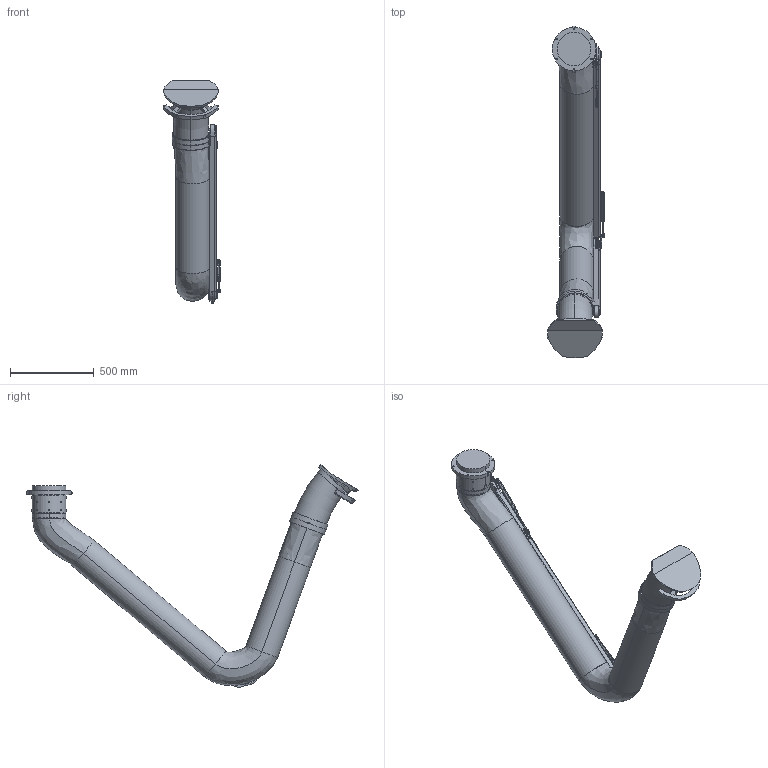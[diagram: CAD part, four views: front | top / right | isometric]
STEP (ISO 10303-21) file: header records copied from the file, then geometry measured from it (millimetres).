
FILE_DESCRIPTION((''),'2;1');
FILE_NAME('PRF-3000-200','2018-09-17T',('Gustav Stenberg'),(''),'CREO PARAMETRIC BY PTC INC, 2016130','CREO PARAMETRIC BY PTC INC, 2016130','');
FILE_SCHEMA(('AUTOMOTIVE_DESIGN { 1 0 10303 214 1 1 1 1 }'));
Length unit declared in the file: millimetre
Products named in the file (42): 102683; 100-5506_L_LIGHT; 100-5506_R_LIGHT; 100-5506; 100-5404-L_LIGHT; 100-5404-R_LIGHT; 100-5404; 100-5914; 100-5913; 100-5915; 135085; 102679; 100-5512-L_LIGHT; 100-512-R_LIGHT; 100-5512; 122219; 102715; 100-5911; 100-5518; 134112; LIGHT_SWIVEL_200_AF0; 126195; 127878; 136836; 136842; 137472; 100-5721_LIGHT; 100-5824B_LIGHT; 100-5862A_LIGHT; 100-5865A_LIGHT; 126057_AF1; 100-6341-200; 137253; 135584; STAB_K4-D4; 130368; 102118-REF; 135588; 130371; GAS_SPRING_ROD_STABILUS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
Assembly tree (45 placements, depth 5):
  PRF-3000-200
    134112
      135085
        102683
        100-5506
          100-5506_L_LIGHT
          100-5506_R_LIGHT
        100-5404
          100-5404-L_LIGHT
          100-5404-R_LIGHT
        100-5915  x2
          100-5914
          100-5913
      122219
        102679
        100-5512
          100-5512-L_LIGHT
          100-512-R_LIGHT
      100-5518
        102715
        100-5911
    137472
      126195
        LIGHT_SWIVEL_200_AF0
      136842
        127878
        100-5911
        136836
    100-5721_LIGHT
    100-6341-200
      100-5824B_LIGHT
      100-5862A_LIGHT
      100-5865A_LIGHT
      126057_AF1
    137253
    130368
      135584
      STAB_K4-D4
    102118-REF
    130371
      135588
      STAB_K4-D4
    102845-REF
      GAS_SPRING_ROD_STABILUS
      STAB_K4-D4
Bounding box: 341.16 x 1976.66 x 1323.95 mm (x, y, z)
Volume: 16667655.7 mm3; surface area: 4889351.4 mm2
Topology: 32 solids, 33 shells, 950 faces, 2298 edges, 1426 vertices
Faces by surface type: cylinder 344, plane 303, cone 115, bspline 81, torus 77, sphere 26, extrusion 4
Entity records: 44764 total; most frequent: CARTESIAN_POINT 11548, DIRECTION 4275, ORIENTED_EDGE 4054, EDGE_CURVE 2027, AXIS2_PLACEMENT_3D 1723, PROPERTY_DEFINITION 1608, REPRESENTATION 1582, PROPERTY_DEFINITION_REPRESENTATION 1582
